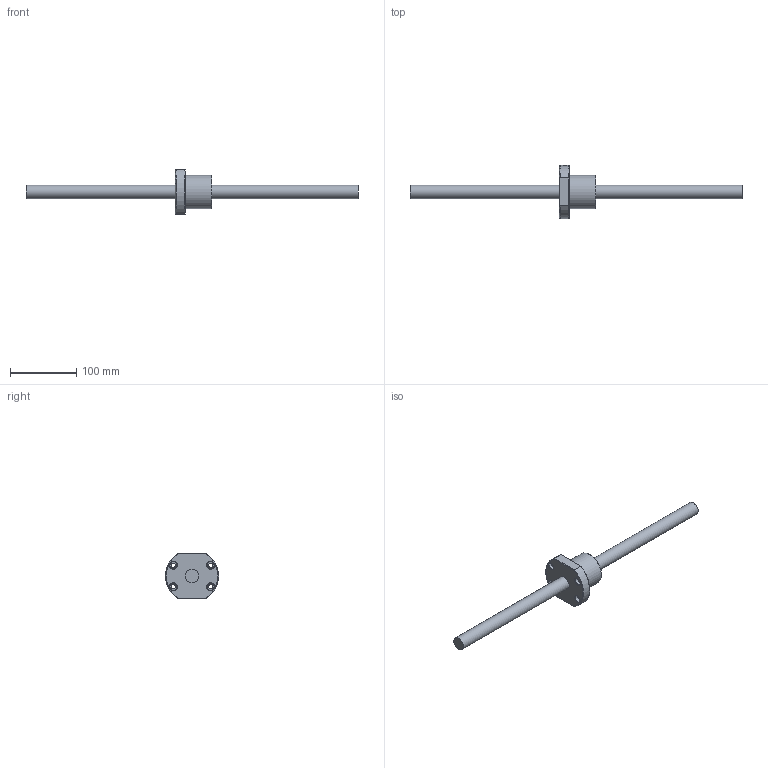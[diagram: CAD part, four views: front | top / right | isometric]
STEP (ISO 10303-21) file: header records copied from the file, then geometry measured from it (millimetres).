
FILE_DESCRIPTION (( 'STEP AP203' ), '1' );
FILE_NAME ('SFK02002.step', '2024-05-30T08:11:19', ( '' ), ( '' ), 'SwSTEP 2.0', 'SolidWorks 2022', '' );
FILE_SCHEMA (( 'CONFIG_CONTROL_DESIGN' ));
Length unit declared in the file: millimetre
Products named in the file (1): SFK02002
Bounding box: 500 x 80 x 68 mm (x, y, z)
Volume: 283716.3 mm3; surface area: 55554.3 mm2
Topology: 2 solids, 2 shells, 57 faces, 147 edges, 98 vertices
Faces by surface type: cylinder 22, plane 16, cone 9, bspline 5, torus 5
Full cylindrical faces by diameter (mm): 3 x1, 5 x6, 6.5 x4, 10.5 x4, 20 x1, 20.6 x1, 50 x1
Entity records: 3170 total; most frequent: CARTESIAN_POINT 2109, DIRECTION 192, ORIENTED_EDGE 170, EDGE_LOOP 91, AXIS2_PLACEMENT_3D 88, EDGE_CURVE 85, VERTEX_POINT 68, FACE_OUTER_BOUND 65
